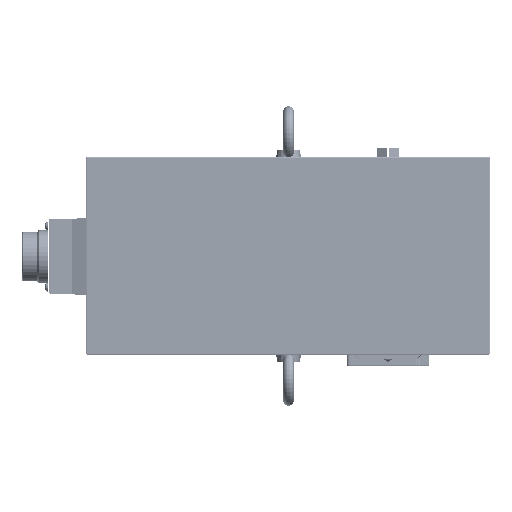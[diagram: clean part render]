
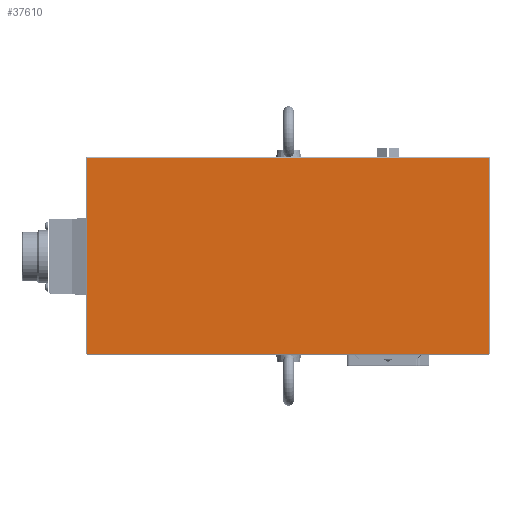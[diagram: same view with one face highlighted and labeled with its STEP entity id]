
A CAD part, top view. The second image highlights one B-rep face of the part: STEP entity #37610.
In plain terms, the highlighted planar face has unit normal (0, 0, 1).
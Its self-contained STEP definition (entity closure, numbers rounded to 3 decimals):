
#37571=CARTESIAN_POINT('',(-60.4,62.5,568.));
#37572=DIRECTION('',(0.,1.,0.));
#37573=DIRECTION('',(0.,0.,-1.));
#37574=AXIS2_PLACEMENT_3D('',#37571,#37573,#37572);
#37575=PLANE('',#37574);
#37576=CARTESIAN_POINT('',(-181.9,-59.,568.));
#37577=VERTEX_POINT('',#37576);
#37578=CARTESIAN_POINT('',(-181.9,59.,568.));
#37579=VERTEX_POINT('',#37578);
#37580=CARTESIAN_POINT('',(-181.9,-59.,568.));
#37581=DIRECTION('',(0.,1.,0.));
#37582=VECTOR('',#37581,118.);
#37583=LINE('',#37580,#37582);
#37584=EDGE_CURVE('',#37577,#37579,#37583,.T.);
#37585=ORIENTED_EDGE('E69',*,*,#37584,.T.);
#37586=CARTESIAN_POINT('',(61.1,59.,568.));
#37587=VERTEX_POINT('',#37586);
#37588=CARTESIAN_POINT('',(-181.9,59.,568.));
#37589=DIRECTION('',(1.,0.,0.));
#37590=VECTOR('',#37589,243.);
#37591=LINE('',#37588,#37590);
#37592=EDGE_CURVE('',#37579,#37587,#37591,.T.);
#37593=ORIENTED_EDGE('E74',*,*,#37592,.T.);
#37594=CARTESIAN_POINT('',(61.1,-59.,568.));
#37595=VERTEX_POINT('',#37594);
#37596=CARTESIAN_POINT('',(61.1,59.,568.));
#37597=DIRECTION('',(0.,-1.,0.));
#37598=VECTOR('',#37597,118.);
#37599=LINE('',#37596,#37598);
#37600=EDGE_CURVE('',#37587,#37595,#37599,.T.);
#37601=ORIENTED_EDGE('E76',*,*,#37600,.T.);
#37602=CARTESIAN_POINT('',(61.1,-59.,568.));
#37603=DIRECTION('',(-1.,0.,0.));
#37604=VECTOR('',#37603,243.);
#37605=LINE('',#37602,#37604);
#37606=EDGE_CURVE('',#37595,#37577,#37605,.T.);
#37607=ORIENTED_EDGE('E72',*,*,#37606,.T.);
#37608=EDGE_LOOP('',(#37585,#37593,#37601,#37607));
#37609=FACE_OUTER_BOUND('',#37608,.F.);
#37610=ADVANCED_FACE('F8',(#37609),#37575,.F.);
